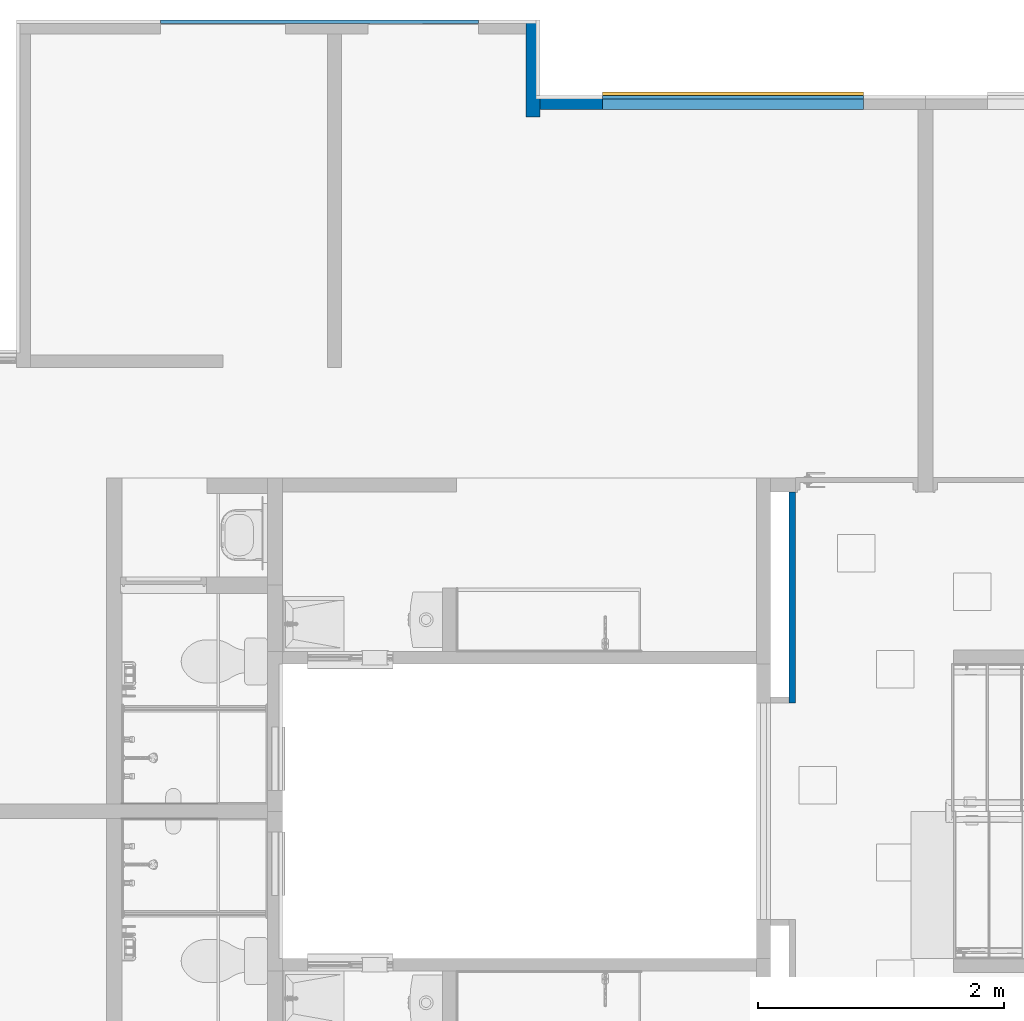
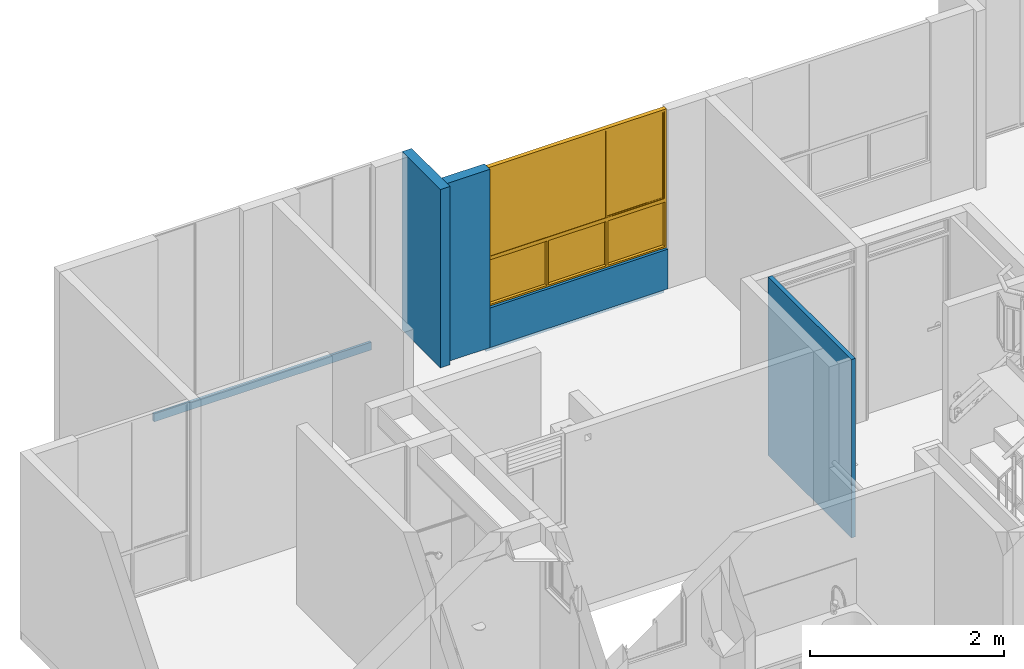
# One storey, part 19 of 48: 6 walls, 1 window, 1 opening.
"""IFC4 building model written with IfcOpenShell, lengths in metres."""

import ifcopenshell
import ifcopenshell.guid

model = None  # the IFC model being written
_history = None  # IfcOwnerHistory: only IFC2X3 demands one
_inside = {}  # id of a spatial element -> (the spatial element, [elements in it])
_under = {}  # id of a project, library or spatial element -> (it, [spatial elements below it])
_declared = {}  # id of a project -> (the project, [libraries it declares])
_typed = {}  # id of a type object -> (the type object, [elements of that type])
_made_of = {}  # id of a material, layer set ... -> (it, [elements and type objects made of it])


def new_model(schema):
    """Start an empty IFC model of exactly this schema.

    Asked for "IFC4X3", IfcOpenShell would pick the latest addendum, in which some entities
    have other attributes; the version numbers below select the first issue.
    IFC2X3 requires an IfcOwnerHistory on every rooted entity: one is made here for all.
    """
    global model, _history
    if schema == "IFC4X3":
        model = ifcopenshell.file(schema_version=(4, 3, 0, 0))
    else:
        model = ifcopenshell.file(schema=schema)
    _inside.clear()
    _under.clear()
    _declared.clear()
    _typed.clear()
    _made_of.clear()
    _history = None
    if model.schema == "IFC2X3":
        org = make("IfcOrganization", Name="unknown")
        user = make(
            "IfcPersonAndOrganization",
            ThePerson=make("IfcPerson", FamilyName="unknown"),
            TheOrganization=org,
        )
        app = make(
            "IfcApplication",
            ApplicationDeveloper=org,
            Version="unknown",
            ApplicationFullName="unknown",
            ApplicationIdentifier="unknown",
        )
        _history = make(
            "IfcOwnerHistory",
            OwningUser=user,
            OwningApplication=app,
            ChangeAction="ADDED",
            CreationDate=0,
        )
    return model


def make(cls, **values):
    """One entity of the class cls with the attributes given. An attribute that is None is left unset."""
    return model.create_entity(
        cls, **{name: value for name, value in values.items() if value is not None}
    )


def entity(cls, *values):
    """Any entity or typed value of the class cls, its attributes in the order of the schema. None: left unset."""
    e = model.create_entity(cls)
    for i, value in enumerate(values):
        if value is not None:
            e[i] = value
    return e


def rooted(cls, **values):
    """An entity with a GlobalId (a new one), such as an element, a storey or a relation."""
    return make(cls, GlobalId=ifcopenshell.guid.new(), OwnerHistory=_history, **values)


def si_unit(unit_type, name, prefix=None):
    """IfcSIUnit, for example si_unit("LENGTHUNIT", "METRE", prefix="MILLI")."""
    return make("IfcSIUnit", UnitType=unit_type, Prefix=prefix, Name=name)


def converted_unit(unit_type, name, factor, base, dimensions=None, offset=None):
    """IfcConversionBasedUnit, such as the inch: factor (a typed value) times the base unit."""
    return make(
        "IfcConversionBasedUnit"
        if offset is None
        else "IfcConversionBasedUnitWithOffset",
        ConversionOffset=offset,
        Dimensions=None
        if dimensions is None
        else entity("IfcDimensionalExponents", *dimensions),
        UnitType=unit_type,
        Name=name,
        ConversionFactor=make(
            "IfcMeasureWithUnit", ValueComponent=factor, UnitComponent=base
        ),
    )


def derived_unit(unit_type, elements):
    """IfcDerivedUnit: a product of units, each with its exponent."""
    return make(
        "IfcDerivedUnit",
        Elements=[
            make("IfcDerivedUnitElement", Unit=unit, Exponent=power)
            for unit, power in elements
        ],
        UnitType=unit_type,
    )


def assignment(units):
    """IfcUnitAssignment: the units of a project."""
    return None if units is None else make("IfcUnitAssignment", Units=units)


def point(xyz):
    """IfcCartesianPoint."""
    return None if xyz is None else make("IfcCartesianPoint", Coordinates=xyz)


def direction(xyz):
    """IfcDirection."""
    return None if xyz is None else make("IfcDirection", DirectionRatios=xyz)


def frame(location, z_axis=None, x_axis=None):
    """IfcAxis2Placement3D, a coordinate frame: its origin and axes. An axis left out is left unset."""
    return make(
        "IfcAxis2Placement3D",
        Location=point(location),
        Axis=direction(z_axis),
        RefDirection=direction(x_axis),
    )


def origin():
    """The frame at (0, 0, 0) with its axes left unset."""
    return frame((0.0, 0.0, 0.0))


def place(relative_to, where):
    """IfcLocalPlacement: puts the frame where relative to a parent placement (None: the world)."""
    return make(
        "IfcLocalPlacement", PlacementRelTo=relative_to, RelativePlacement=where
    )


def context(
    kind, dimensions, precision=None, world=None, true_north=None, identifier=None
):
    """IfcGeometricRepresentationContext, for example the 3D "Model" context."""
    return make(
        "IfcGeometricRepresentationContext",
        ContextIdentifier=identifier,
        ContextType=kind,
        CoordinateSpaceDimension=dimensions,
        Precision=precision,
        WorldCoordinateSystem=world,
        TrueNorth=true_north,
    )


def subcontext(parent, identifier, kind, view, scale=None):
    """IfcGeometricRepresentationSubContext, for example "Body" below "Model"."""
    return make(
        "IfcGeometricRepresentationSubContext",
        ContextIdentifier=identifier,
        ContextType=kind,
        ParentContext=parent,
        TargetScale=scale,
        TargetView=view,
    )


def project(units=None, contexts=None):
    """IfcProject with its units and contexts."""
    return rooted(
        "IfcProject",
        Name="project",
        RepresentationContexts=contexts,
        UnitsInContext=assignment(units),
    )


def spatial(cls, under=None, at=None, **own):
    """A site, building, storey or space (cls), placed at a placement, below another one or the project."""
    s = rooted(cls, ObjectPlacement=at, **own)
    if under is not None:
        _under.setdefault(under.id(), (under, []))[1].append(s)
    return s


def point_list(points):
    """IfcCartesianPointList2D or 3D."""
    cls = (
        "IfcCartesianPointList2D" if len(points[0]) == 2 else "IfcCartesianPointList3D"
    )
    return make(cls, CoordList=points)


def indexed_curve(points, segments=None, self_intersect=None):
    """IfcIndexedPolyCurve: lines and arcs through numbered points (the first is 1)."""
    return make(
        "IfcIndexedPolyCurve",
        Points=point_list(points),
        Segments=segments,
        SelfIntersect=self_intersect,
    )


def outline(outer, holes=None, kind="AREA"):
    """IfcArbitraryClosedProfileDef: a profile drawn as a closed curve; with holes, ...WithVoids."""
    if holes is None:
        return make("IfcArbitraryClosedProfileDef", ProfileType=kind, OuterCurve=outer)
    return make(
        "IfcArbitraryProfileDefWithVoids",
        ProfileType=kind,
        OuterCurve=outer,
        InnerCurves=holes,
    )


def extrude(swept, where, along, depth):
    """IfcExtrudedAreaSolid: the profile swept, set in the frame where, extruded along a direction by depth."""
    return make(
        "IfcExtrudedAreaSolid",
        SweptArea=swept,
        Position=where,
        ExtrudedDirection=direction(along),
        Depth=depth,
    )


def polygons(points, faces, closed=None, point_numbers=None):
    """IfcPolygonalFaceSet: a face is its outer loop, then its inner loops; points numbered from 1."""
    made = []
    for loops in faces:
        if len(loops) == 1:
            made.append(make("IfcIndexedPolygonalFace", CoordIndex=loops[0]))
        else:
            made.append(
                make(
                    "IfcIndexedPolygonalFaceWithVoids",
                    CoordIndex=loops[0],
                    InnerCoordIndices=loops[1:],
                )
            )
    return make(
        "IfcPolygonalFaceSet",
        Coordinates=point_list(points),
        Closed=closed,
        Faces=made,
        PnIndex=point_numbers,
    )


def shape(context_of_items, identifier, shape_type, items):
    """IfcShapeRepresentation: the items that make up one representation, for example the "Body"."""
    return make(
        "IfcShapeRepresentation",
        ContextOfItems=context_of_items,
        RepresentationIdentifier=identifier,
        RepresentationType=shape_type,
        Items=items,
    )


def source(mapping_origin, context_of_items, identifier, shape_type, items):
    """IfcRepresentationMap: a shape defined once, which mapped items show again and again."""
    return make(
        "IfcRepresentationMap",
        MappingOrigin=mapping_origin,
        MappedRepresentation=shape(context_of_items, identifier, shape_type, items),
    )


def transform(
    local_origin,
    x_axis=None,
    y_axis=None,
    z_axis=None,
    scale=None,
    scale2=None,
    scale3=None,
    uniform=True,
):
    """IfcCartesianTransformationOperator3D, or its non-uniform kind. x_axis, y_axis, z_axis: its Axis1, 2, 3."""
    if uniform:
        return make(
            "IfcCartesianTransformationOperator3D",
            Axis1=direction(x_axis),
            Axis2=direction(y_axis),
            LocalOrigin=point(local_origin),
            Scale=scale,
            Axis3=direction(z_axis),
        )
    return make(
        "IfcCartesianTransformationOperator3DnonUniform",
        Axis1=direction(x_axis),
        Axis2=direction(y_axis),
        LocalOrigin=point(local_origin),
        Scale=scale,
        Axis3=direction(z_axis),
        Scale2=scale2,
        Scale3=scale3,
    )


def mapped(mapping_source, mapping_target):
    """IfcMappedItem: shows the shape of a source again, moved by a transform."""
    return make(
        "IfcMappedItem", MappingSource=mapping_source, MappingTarget=mapping_target
    )


def material(Name=None, Category=None):
    """IfcMaterial."""
    return make("IfcMaterial", Name=Name, Category=Category)


def constituent(of_material, Name=None, Category=None, fraction=None):
    """IfcMaterialConstituent: one of the materials an element consists of."""
    return make(
        "IfcMaterialConstituent",
        Name=Name,
        Material=of_material,
        Fraction=fraction,
        Category=Category,
    )


def constituent_set(constituents=None, Name=None):
    """IfcMaterialConstituentSet."""
    return make(
        "IfcMaterialConstituentSet", Name=Name, MaterialConstituents=constituents
    )


def made_of(thing, what):
    """Note that an element or type object is made of a material, layer set ...; save() writes the relation."""
    if what is not None:
        _made_of.setdefault(what.id(), (what, []))[1].append(thing)
    return thing


def type_object(cls, material=None, **own):
    """A type object (cls), such as IfcWallType, which elements share."""
    return made_of(rooted(cls, **own), material)


def type_shapes(of_type, sources):
    """Give a type object the sources (RepresentationMaps) that its elements show as mapped items."""
    of_type.RepresentationMaps = sources


def element(
    cls,
    number,
    at=None,
    inside=None,
    cuts=None,
    type_object=None,
    material=None,
    context=None,
    identifier="Body",
    shape_type=None,
    held_by="IfcProductDefinitionShape",
    body=None,
    shapes=None,
    **own,
):
    """One element of the class cls, such as IfcWall. Its Tag is "e" and its number.

    at: its placement. inside: the storey or other place that contains it. cuts: it is an
    opening in that element (IfcRelVoidsElement). A single representation is given by context,
    identifier, shape_type and body (its items); several are given by shapes. held_by: the class
    of the entity that holds the representations. save() writes the other relations.
    """
    e = rooted(cls, Tag="e%d" % number, ObjectPlacement=at, **own)
    if body is not None:
        shapes = [shape(context, identifier, shape_type, body)]
    if shapes is not None:
        e.Representation = make(held_by, Representations=shapes)
    if inside is not None:
        _inside.setdefault(inside.id(), (inside, []))[1].append(e)
    if cuts is not None:
        rooted(
            "IfcRelVoidsElement", RelatingBuildingElement=cuts, RelatedOpeningElement=e
        )
    if type_object is not None:
        _typed.setdefault(type_object.id(), (type_object, []))[1].append(e)
    return made_of(e, material)


def fill(opening, filler):
    """IfcRelFillsElement: the door or window that sits in an opening."""
    return rooted(
        "IfcRelFillsElement",
        RelatingOpeningElement=opening,
        RelatedBuildingElement=filler,
    )


def aggregate(whole, parts):
    """IfcRelAggregates: a whole, such as a stair, and the parts it consists of."""
    return rooted("IfcRelAggregates", RelatingObject=whole, RelatedObjects=parts)


def save(model, path):
    """Write the relations noted so far, then the file.

    IfcRelAggregates (storeys below a building ...), IfcRelContainedInSpatialStructure (elements
    in a storey), IfcRelDefinesByType, IfcRelAssociatesMaterial and IfcRelDeclares: one each for
    every whole, place, type object, material and project.
    """
    for whole, parts in _under.values():
        aggregate(whole, parts)
    for where, things in _inside.values():
        rooted(
            "IfcRelContainedInSpatialStructure",
            RelatedElements=things,
            RelatingStructure=where,
        )
    for kind, things in _typed.values():
        rooted("IfcRelDefinesByType", RelatedObjects=things, RelatingType=kind)
    for what, things in _made_of.values():
        rooted("IfcRelAssociatesMaterial", RelatedObjects=things, RelatingMaterial=what)
    for by, libraries in _declared.values():
        rooted("IfcRelDeclares", RelatingContext=by, RelatedDefinitions=libraries)
    model.write(path)


model = new_model("IFC4")

# Units and contexts
model_context = context("Model", 3, precision=1e-05, world=origin(), true_north=direction((6.123031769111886e-17, 1.0)))
body_context = subcontext(model_context, "Body", "Model", "MODEL_VIEW")
ifc_project = project(units=[si_unit("LENGTHUNIT", "METRE"), si_unit("AREAUNIT", "SQUARE_METRE"), si_unit("VOLUMEUNIT", "CUBIC_METRE"), converted_unit("PLANEANGLEUNIT", "DEGREE", entity("IfcRatioMeasure", 0.017453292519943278), si_unit("PLANEANGLEUNIT", "RADIAN"), dimensions=[0, 0, 0, 0, 0, 0, 0]), si_unit("MASSUNIT", "GRAM", prefix="KILO"), derived_unit("MASSDENSITYUNIT", [(si_unit("MASSUNIT", "GRAM", prefix="KILO"), 1), (si_unit("LENGTHUNIT", "METRE"), -3)]), derived_unit("IONCONCENTRATIONUNIT", [(si_unit("MASSUNIT", "GRAM", prefix="KILO"), 1), (si_unit("LENGTHUNIT", "METRE"), -3)]), derived_unit("MOMENTOFINERTIAUNIT", [(si_unit("LENGTHUNIT", "METRE"), 4)]), si_unit("TIMEUNIT", "SECOND"), si_unit("FREQUENCYUNIT", "HERTZ"), si_unit("THERMODYNAMICTEMPERATUREUNIT", "DEGREE_CELSIUS"), derived_unit("THERMALTRANSMITTANCEUNIT", [(si_unit("MASSUNIT", "GRAM", prefix="KILO"), 1), (si_unit("THERMODYNAMICTEMPERATUREUNIT", "KELVIN"), -1), (si_unit("TIMEUNIT", "SECOND"), -3)]), derived_unit("THERMALCONDUCTANCEUNIT", [(si_unit("MASSUNIT", "GRAM", prefix="KILO"), 1), (si_unit("THERMODYNAMICTEMPERATUREUNIT", "KELVIN"), -1), (si_unit("TIMEUNIT", "SECOND"), -3), (si_unit("LENGTHUNIT", "METRE"), 1)]), derived_unit("VOLUMETRICFLOWRATEUNIT", [(si_unit("LENGTHUNIT", "METRE"), 3), (si_unit("TIMEUNIT", "SECOND"), -1)]), derived_unit("MASSFLOWRATEUNIT", [(si_unit("MASSUNIT", "GRAM", prefix="KILO"), 1), (si_unit("TIMEUNIT", "SECOND"), -1)]), derived_unit("ROTATIONALFREQUENCYUNIT", [(si_unit("TIMEUNIT", "SECOND"), -1)]), si_unit("ELECTRICCURRENTUNIT", "AMPERE"), si_unit("ELECTRICVOLTAGEUNIT", "VOLT"), si_unit("POWERUNIT", "WATT"), si_unit("FORCEUNIT", "NEWTON", prefix="KILO"), si_unit("ILLUMINANCEUNIT", "LUX"), si_unit("LUMINOUSFLUXUNIT", "LUMEN"), si_unit("LUMINOUSINTENSITYUNIT", "CANDELA"), derived_unit("USERDEFINED", [(si_unit("MASSUNIT", "GRAM", prefix="KILO"), -1), (si_unit("LENGTHUNIT", "METRE"), -2), (si_unit("TIMEUNIT", "SECOND"), 3), (si_unit("LUMINOUSFLUXUNIT", "LUMEN"), 1)]), derived_unit("USERDEFINED", [(si_unit("MASSUNIT", "GRAM", prefix="KILO"), 1), (si_unit("TIMEUNIT", "SECOND"), -3), (si_unit("LENGTHUNIT", "METRE"), 3), (si_unit("ELECTRICCURRENTUNIT", "AMPERE"), -2)]), derived_unit("SOUNDPOWERUNIT", [(si_unit("MASSUNIT", "GRAM", prefix="KILO"), 1), (si_unit("TIMEUNIT", "SECOND"), -3), (si_unit("LENGTHUNIT", "METRE"), 2)]), derived_unit("SOUNDPRESSUREUNIT", [(si_unit("MASSUNIT", "GRAM", prefix="KILO"), 1), (si_unit("LENGTHUNIT", "METRE"), -1), (si_unit("TIMEUNIT", "SECOND"), -2)]), derived_unit("LINEARVELOCITYUNIT", [(si_unit("LENGTHUNIT", "METRE"), 1), (si_unit("TIMEUNIT", "SECOND"), -1)]), si_unit("PRESSUREUNIT", "PASCAL"), derived_unit("USERDEFINED", [(si_unit("MASSUNIT", "GRAM", prefix="KILO"), 1), (si_unit("LENGTHUNIT", "METRE"), -2), (si_unit("TIMEUNIT", "SECOND"), -2)]), derived_unit("LINEARFORCEUNIT", [(si_unit("MASSUNIT", "GRAM", prefix="KILO"), 1), (si_unit("TIMEUNIT", "SECOND"), -2)]), derived_unit("PLANARFORCEUNIT", [(si_unit("MASSUNIT", "GRAM", prefix="KILO"), 1), (si_unit("LENGTHUNIT", "METRE"), -1), (si_unit("TIMEUNIT", "SECOND"), -2)]), derived_unit("SPECIFICHEATCAPACITYUNIT", [(si_unit("THERMODYNAMICTEMPERATUREUNIT", "KELVIN"), -1), (si_unit("LENGTHUNIT", "METRE"), 2), (si_unit("TIMEUNIT", "SECOND"), -2)]), derived_unit("HEATINGVALUEUNIT", [(si_unit("LENGTHUNIT", "METRE"), 2), (si_unit("TIMEUNIT", "SECOND"), -2)]), derived_unit("VAPORPERMEABILITYUNIT", [(si_unit("LENGTHUNIT", "METRE"), -1), (si_unit("TIMEUNIT", "SECOND"), 1)]), derived_unit("DYNAMICVISCOSITYUNIT", [(si_unit("MASSUNIT", "GRAM", prefix="KILO"), 1), (si_unit("TIMEUNIT", "SECOND"), -1), (si_unit("LENGTHUNIT", "METRE"), -1)]), derived_unit("THERMALEXPANSIONCOEFFICIENTUNIT", [(si_unit("THERMODYNAMICTEMPERATUREUNIT", "KELVIN"), -1)]), derived_unit("MODULUSOFELASTICITYUNIT", [(si_unit("MASSUNIT", "GRAM", prefix="KILO"), 1), (si_unit("LENGTHUNIT", "METRE"), -1), (si_unit("TIMEUNIT", "SECOND"), -2)]), derived_unit("ISOTHERMALMOISTURECAPACITYUNIT", [(si_unit("LENGTHUNIT", "METRE"), 3), (si_unit("MASSUNIT", "GRAM", prefix="KILO"), -1)]), derived_unit("MOISTUREDIFFUSIVITYUNIT", [(si_unit("TIMEUNIT", "SECOND"), -1), (si_unit("LENGTHUNIT", "METRE"), 2)])], contexts=[model_context])

# Site, building, storey
site_placement = place(None, origin())
site = spatial("IfcSite", under=ifc_project, at=site_placement, Name="Default", CompositionType="ELEMENT")
building_placement = place(site_placement, origin())
building = spatial("IfcBuilding", under=site, at=building_placement, CompositionType="ELEMENT")
storey_placement = place(building_placement, frame((0.0, 0.0, 7.050000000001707)))
storey = spatial("IfcBuildingStorey", under=building, at=storey_placement, Name="Nivel 4", CompositionType="ELEMENT", Elevation=7.050000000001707)

# Wall
ifc_material_1 = material(Name="Ladrillo claro (Aire)", Category="Materials")
wall_type_1 = type_object("IfcWallType", Name="Basic Wall:B2010 - 0.115m - Muro exterior en mampostería - Ladrillo", PredefinedType="STANDARD")
wall_1_placement = place(storey_placement, frame((6.124999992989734, 0.01999997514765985, 0.0), z_axis=(0.0, 0.0, 1.0), x_axis=(0.0, -1.0, 0.0)))
element("IfcWall", 1, at=wall_1_placement, inside=storey, type_object=wall_type_1, material=ifc_material_1, Name="Basic Wall:B2010 - 0.115m - Muro exterior en mampostería - Ladrillo", ObjectType="Basic Wall:B2010 - 0.115m - Muro exterior en mampostería - Ladrillo", PredefinedType="NOTDEFINED", context=body_context, shape_type="SweptSolid", body=[
    extrude(outline(indexed_curve([(0.7899180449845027, 0.05750000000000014), (1.6929241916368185e-18, 0.057499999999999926), (-1.6929241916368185e-18, -0.057499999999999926), (0.7899180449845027, -0.057499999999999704), (0.7899180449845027, 0.05750000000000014)], self_intersect=False)), origin(), (0.0, 0.0, 1.0), 2.2500000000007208),
])

# Wall, opening, window
wall_2_placement = place(storey_placement, frame((6.692499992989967, -0.6525000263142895, 0.0)))
wall_2 = element("IfcWall", 2, at=wall_2_placement, inside=storey, type_object=wall_type_1, material=ifc_material_1, Name="Basic Wall:B2010 - 0.115m - Muro exterior en mampostería - Ladrillo", ObjectType="Basic Wall:B2010 - 0.115m - Muro exterior en mampostería - Ladrillo", PredefinedType="NOTDEFINED", context=body_context, shape_type="Tessellation", body=[
    polygons([(4.788365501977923e-16, -0.05750000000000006, 0.0), (2.1249999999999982, -0.05750000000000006, 0.0), (2.1249999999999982, -0.05750000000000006, 0.5000000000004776), (4.788365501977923e-16, -0.05750000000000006, 0.5000000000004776), (2.1249999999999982, 0.05749999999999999, 0.0), (5.461691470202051e-16, 0.05749999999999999, 0.0), (5.461691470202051e-16, 0.05749999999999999, 0.5000000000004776), (2.1249999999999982, 0.05749999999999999, 0.5000000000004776)], [[[1, 2, 3, 4]], [[5, 6, 7, 8]], [[2, 1, 6, 5]], [[2, 5, 8, 3]], [[6, 1, 4, 7]], [[4, 3, 8, 7]]], closed=True),
])
opening_placement = place(wall_2_placement, frame((0.0, -0.0575000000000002, 0.5)))
opening = element("IfcOpeningElement", 3, at=opening_placement, cuts=wall_2, Name="B2020 - 6c Ventana corrediza - Aluminio + Vidrio:B2020 -2.13m x 1.750m - Ventana corrediza 2C - Aluminio + Vidrio:1", PredefinedType="OPENING", context=body_context, shape_type="SweptSolid", body=[
    extrude(outline(indexed_curve([(0.0, 2.125), (0.0, 0.0), (1.7499999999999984, 0.0), (1.7499999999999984, 2.125), (0.0, 2.125)], self_intersect=False)), frame((0.0, 0.0, 0.0), z_axis=(0.0, 1.0, 0.0), x_axis=(0.0, 0.0, 1.0)), (0.0, 0.0, 1.0), 0.115),
])
ifc_material_2 = material(Name="Aluminio", Category="Materials")
ifc_constituent_1 = constituent(ifc_material_2, Name="Aluminio", Category="Materials")
ifc_material_3 = material(Name="Vidrio", Category="Materials")
ifc_constituent_2 = constituent(ifc_material_3, Name="Vidrio", Category="Materials")
ifc_material_4 = material(Name="Alfajía en aluminio", Category="Materials")
ifc_constituent_3 = constituent(ifc_material_4, Name="Alfajía en aluminio", Category="Materials")
ifc_constituent_set_1 = constituent_set(constituents=[ifc_constituent_1, ifc_constituent_2, ifc_constituent_3])
ifc_constituent_4 = constituent(ifc_material_2, Name="Aluminio", Category="Materials")
ifc_constituent_5 = constituent(ifc_material_3, Name="Vidrio", Category="Materials")
ifc_constituent_6 = constituent(ifc_material_4, Name="Alfajía en aluminio", Category="Materials")
ifc_constituent_set_2 = constituent_set(constituents=[ifc_constituent_4, ifc_constituent_5, ifc_constituent_6])
window_type = type_object("IfcWindowType", Name="B2020 - 6c Ventana corrediza - Aluminio + Vidrio:B2020 -2.13m x 1.750m - Ventana corrediza 2C - Aluminio + Vidrio", PartitioningType="NOTDEFINED", PredefinedType="WINDOW", material=ifc_constituent_set_2)
shared_shape = source(origin(), body_context, "Body", "Tessellation", [
    polygons([(1.3916666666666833, 0.03749999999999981, 1.7249999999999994), (1.3916666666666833, 0.03749999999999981, 0.6249999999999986), (1.391666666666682, 0.032499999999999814, 0.6249999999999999), (1.3916666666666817, 0.032499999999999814, 1.7249999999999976), (-0.6833333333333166, 0.03249999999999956, 0.6249999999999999), (-0.6833333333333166, 0.032499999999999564, 1.7249999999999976), (-0.7083333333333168, 0.03249999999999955, 0.5999999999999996), (1.4166666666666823, 0.032499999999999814, 0.5999999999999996), (1.4166666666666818, 0.032499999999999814, 1.749999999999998), (-0.7083333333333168, 0.03249999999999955, 1.749999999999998), (-0.6833333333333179, 0.03749999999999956, 0.6249999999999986), (-0.6833333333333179, 0.03749999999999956, 1.7249999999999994), (-0.6883333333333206, 0.03749999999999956, 0.6199999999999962), (-0.6883333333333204, 0.03749999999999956, 1.7300000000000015), (1.3966666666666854, 0.03749999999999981, 1.7300000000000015), (1.3966666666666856, 0.03749999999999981, 0.6199999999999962), (1.3966666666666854, 0.05499999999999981, 1.7300000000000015), (1.3966666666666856, 0.05499999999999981, 0.6199999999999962), (-0.6883333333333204, 0.05499999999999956, 0.6199999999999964), (-0.6883333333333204, 0.05499999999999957, 1.7300000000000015), (-0.6833333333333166, 0.05499999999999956, 0.6249999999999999), (-0.6833333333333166, 0.05499999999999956, 1.7249999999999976), (1.3916666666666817, 0.05499999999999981, 1.7249999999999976), (1.391666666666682, 0.05499999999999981, 0.6249999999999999), (1.3916666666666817, 0.05999999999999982, 1.7249999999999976), (1.391666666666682, 0.05999999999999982, 0.6249999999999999), (-0.6833333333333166, 0.059999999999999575, 0.6249999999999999), (-0.6833333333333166, 0.059999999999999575, 1.7249999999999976), (-0.7033333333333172, 0.05999999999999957, 0.6049999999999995), (-0.7033333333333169, 0.05999999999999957, 1.744999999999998), (1.411666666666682, 0.05999999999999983, 1.744999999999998), (1.4116666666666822, 0.05999999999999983, 0.6049999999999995), (1.411666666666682, 0.07749999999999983, 1.744999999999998), (1.4116666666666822, 0.07749999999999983, 0.6049999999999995), (-0.7033333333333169, 0.07749999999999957, 0.6049999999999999), (-0.7033333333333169, 0.07749999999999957, 1.744999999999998), (-0.6833333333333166, 0.07749999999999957, 0.6249999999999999), (-0.6833333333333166, 0.07749999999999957, 1.7249999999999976), (1.3916666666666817, 0.07749999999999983, 1.7249999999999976), (1.391666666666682, 0.07749999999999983, 0.6249999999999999), (1.3916666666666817, 0.08249999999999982, 1.7249999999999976), (1.391666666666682, 0.08249999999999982, 0.6249999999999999), (-0.6833333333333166, 0.08249999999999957, 0.6249999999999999), (-0.6833333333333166, 0.08249999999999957, 1.7249999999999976), (-0.7083333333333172, 0.08249999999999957, 0.5999999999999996), (-0.7083333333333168, 0.08249999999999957, 1.749999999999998), (1.4166666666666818, 0.08249999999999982, 1.749999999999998), (1.4166666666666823, 0.08249999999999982, 0.5999999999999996)], [[[1, 2, 3, 4]], [[7, 8, 9, 10], [5, 6, 4, 3]], [[2, 11, 5, 3]], [[13, 14, 15, 16], [11, 2, 1, 12]], [[17, 18, 16, 15]], [[18, 19, 13, 16]], [[19, 18, 17, 20], [21, 22, 23, 24]], [[25, 26, 24, 23]], [[26, 27, 21, 24]], [[29, 30, 31, 32], [27, 26, 25, 28]], [[33, 34, 32, 31]], [[34, 35, 29, 32]], [[35, 34, 33, 36], [37, 38, 39, 40]], [[41, 42, 40, 39]], [[42, 43, 37, 40]], [[45, 46, 47, 48], [43, 42, 41, 44]], [[9, 8, 48, 47]], [[8, 7, 45, 48]], [[11, 12, 6, 5]], [[19, 20, 14, 13]], [[27, 28, 22, 21]], [[35, 36, 30, 29]], [[43, 44, 38, 37]], [[7, 10, 46, 45]], [[12, 1, 4, 6]], [[20, 17, 15, 14]], [[28, 25, 23, 22]], [[36, 33, 31, 30]], [[44, 41, 39, 38]], [[10, 9, 47, 46]]], closed=True),
    polygons([(-0.009999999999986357, 0.08249999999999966, 0.6249999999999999), (0.010000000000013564, 0.08249999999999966, 0.6249999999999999), (0.010000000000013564, 0.05999999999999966, 0.6249999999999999), (-0.009999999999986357, 0.05999999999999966, 0.6249999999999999), (-0.009999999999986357, 0.08249999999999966, 1.7249999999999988), (-0.009999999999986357, 0.05999999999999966, 1.7249999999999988), (0.010000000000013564, 0.05999999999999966, 1.7249999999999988), (0.010000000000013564, 0.08249999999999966, 1.7249999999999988)], [[[1, 2, 3, 4]], [[5, 1, 4, 6]], [[6, 4, 3, 7]], [[7, 3, 2, 8]], [[8, 2, 1, 5]], [[5, 6, 7, 8]]], closed=True),
    polygons([(0.7108333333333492, 0.06674999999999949, 1.7299999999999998), (-0.6833333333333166, 0.06674999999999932, 1.7299999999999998), (-0.6833333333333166, 0.06674999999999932, 0.6174999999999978), (0.7108333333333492, 0.06674999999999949, 0.6174999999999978), (0.7108333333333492, 0.0707499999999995, 0.6174999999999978), (0.7108333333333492, 0.0707499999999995, 1.7299999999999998), (-0.6833333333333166, 0.07074999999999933, 0.6174999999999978), (-0.6833333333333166, 0.07074999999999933, 1.7299999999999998)], [[[1, 2, 3, 4]], [[4, 5, 6, 1]], [[3, 7, 5, 4]], [[2, 8, 7, 3]], [[6, 5, 7, 8]], [[1, 6, 8, 2]]], closed=True),
    polygons([(0.7108333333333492, 0.07074999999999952, 0.6225000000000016), (-0.6783333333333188, 0.07074999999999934, 0.6225000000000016), (-0.6783333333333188, 0.06674999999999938, 0.6225000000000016), (0.7108333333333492, 0.06674999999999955, 0.6225000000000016), (-0.6783333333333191, 0.07074999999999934, 1.730000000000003), (-0.6783333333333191, 0.06674999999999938, 1.730000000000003), (0.7108333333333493, 0.06674999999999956, 1.730000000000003), (-0.6633333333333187, 0.06674999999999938, 1.7150000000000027), (-0.6633333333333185, 0.06674999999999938, 0.637500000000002), (0.695833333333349, 0.06674999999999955, 0.637500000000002), (0.695833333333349, 0.06674999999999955, 1.7150000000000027), (0.7108333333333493, 0.07074999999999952, 1.730000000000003), (-0.6633333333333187, 0.07074999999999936, 0.637500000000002), (-0.6633333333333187, 0.07074999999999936, 1.7150000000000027), (0.695833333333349, 0.07074999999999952, 1.7150000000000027), (0.695833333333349, 0.07074999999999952, 0.6375000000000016), (0.695833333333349, 0.07549999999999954, 0.637500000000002), (-0.6633333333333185, 0.07549999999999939, 0.6375000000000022), (-0.6633333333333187, 0.07549999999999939, 1.7150000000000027), (0.695833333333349, 0.07549999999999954, 1.7150000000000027), (-0.6833333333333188, 0.07549999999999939, 0.6175000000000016), (-0.683333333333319, 0.07549999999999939, 1.735000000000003), (0.7158333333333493, 0.07549999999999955, 1.735000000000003), (0.7158333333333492, 0.07549999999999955, 0.6175000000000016), (0.7158333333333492, 0.06199999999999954, 0.6175000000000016), (-0.6833333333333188, 0.061999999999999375, 0.6175000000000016), (-0.683333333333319, 0.061999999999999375, 1.735000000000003), (0.7158333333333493, 0.06199999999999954, 1.735000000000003), (-0.6633333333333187, 0.06199999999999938, 0.637500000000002), (-0.6633333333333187, 0.06199999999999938, 1.7150000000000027), (0.695833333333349, 0.06199999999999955, 1.7150000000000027), (0.695833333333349, 0.06199999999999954, 0.6375000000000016)], [[[1, 2, 3, 4]], [[2, 5, 6, 3]], [[3, 6, 7, 4], [8, 9, 10, 11]], [[5, 2, 1, 12], [13, 14, 15, 16]], [[17, 18, 13, 16]], [[18, 19, 14, 13]], [[21, 22, 23, 24], [19, 18, 17, 20]], [[25, 26, 21, 24]], [[26, 27, 22, 21]], [[27, 26, 25, 28], [29, 30, 31, 32]], [[10, 9, 29, 32]], [[9, 8, 30, 29]], [[12, 1, 4, 7]], [[20, 17, 16, 15]], [[28, 25, 24, 23]], [[11, 10, 32, 31]], [[5, 12, 7, 6]], [[19, 20, 15, 14]], [[27, 28, 23, 22]], [[8, 11, 31, 30]]], closed=True),
    polygons([(1.3916666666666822, 0.04424999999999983, 1.7299999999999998), (0.7033333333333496, 0.04424999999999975, 1.7299999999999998), (0.7033333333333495, 0.04424999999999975, 0.6174999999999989), (1.391666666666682, 0.04424999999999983, 0.6174999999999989), (1.391666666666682, 0.04824999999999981, 0.6174999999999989), (1.3916666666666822, 0.04824999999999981, 1.7299999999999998), (0.7033333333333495, 0.048249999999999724, 0.6174999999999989), (0.7033333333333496, 0.048249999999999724, 1.7299999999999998)], [[[1, 2, 3, 4]], [[4, 5, 6, 1]], [[3, 7, 5, 4]], [[2, 8, 7, 3]], [[6, 5, 7, 8]], [[1, 6, 8, 2]]], closed=True),
    polygons([(1.391666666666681, 0.04824999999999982, 0.6224999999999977), (0.7033333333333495, 0.04824999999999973, 0.6224999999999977), (0.7033333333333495, 0.044249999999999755, 0.6224999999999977), (1.391666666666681, 0.04424999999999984, 0.6224999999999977), (0.7033333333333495, 0.04824999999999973, 1.729999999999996), (0.7033333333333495, 0.044249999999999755, 1.729999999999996), (1.391666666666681, 0.04424999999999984, 1.729999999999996), (0.7183333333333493, 0.044249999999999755, 1.714999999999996), (0.7183333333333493, 0.044249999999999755, 0.6374999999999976), (1.3766666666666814, 0.04424999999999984, 0.6374999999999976), (1.3766666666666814, 0.04424999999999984, 1.714999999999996), (1.391666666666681, 0.04824999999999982, 1.729999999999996), (0.7183333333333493, 0.04824999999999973, 0.6374999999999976), (0.7183333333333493, 0.04824999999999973, 1.714999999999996), (1.3766666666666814, 0.04824999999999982, 1.714999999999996), (1.3766666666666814, 0.04824999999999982, 0.6374999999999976), (1.3766666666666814, 0.052999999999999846, 0.6374999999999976), (0.7183333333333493, 0.05299999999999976, 0.6374999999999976), (0.7183333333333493, 0.05299999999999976, 1.714999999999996), (1.3766666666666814, 0.052999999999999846, 1.714999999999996), (0.6983333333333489, 0.052999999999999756, 0.6174999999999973), (0.6983333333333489, 0.05299999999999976, 1.7349999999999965), (1.3966666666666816, 0.052999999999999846, 1.7349999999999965), (1.3966666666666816, 0.052999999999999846, 0.6174999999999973), (1.3966666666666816, 0.03949999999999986, 0.6174999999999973), (0.6983333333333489, 0.03949999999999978, 0.6174999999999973), (0.6983333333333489, 0.03949999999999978, 1.7349999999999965), (1.3966666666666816, 0.03949999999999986, 1.7349999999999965), (0.7183333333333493, 0.039499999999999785, 0.6374999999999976), (0.7183333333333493, 0.03949999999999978, 1.714999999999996), (1.3766666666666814, 0.039499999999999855, 1.714999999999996), (1.3766666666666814, 0.039499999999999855, 0.6374999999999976)], [[[1, 2, 3, 4]], [[2, 5, 6, 3]], [[3, 6, 7, 4], [8, 9, 10, 11]], [[5, 2, 1, 12], [13, 14, 15, 16]], [[17, 18, 13, 16]], [[18, 19, 14, 13]], [[21, 22, 23, 24], [19, 18, 17, 20]], [[25, 26, 21, 24]], [[26, 27, 22, 21]], [[27, 26, 25, 28], [29, 30, 31, 32]], [[10, 9, 29, 32]], [[9, 8, 30, 29]], [[12, 1, 4, 7]], [[20, 17, 16, 15]], [[28, 25, 24, 23]], [[11, 10, 32, 31]], [[5, 12, 7, 6]], [[19, 20, 15, 14]], [[27, 28, 23, 22]], [[8, 11, 31, 30]]], closed=True),
    polygons([(-0.6883333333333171, 0.04424999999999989, 1.7299999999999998), (-0.6883333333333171, 0.04424999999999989, 0.6174999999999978), (1.3916666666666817, 0.04424999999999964, 0.6174999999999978), (1.3916666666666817, 0.04424999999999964, 1.7299999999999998), (1.3916666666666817, 0.04824999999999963, 0.6174999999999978), (1.3916666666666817, 0.04824999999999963, 1.7299999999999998), (-0.6883333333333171, 0.04824999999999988, 0.6174999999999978), (-0.6883333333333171, 0.04824999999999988, 1.7299999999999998)], [[[1, 2, 3, 4]], [[3, 5, 6, 4]], [[2, 7, 5, 3]], [[1, 8, 7, 2]], [[8, 6, 5, 7]], [[4, 6, 8, 1]]], closed=True),
    polygons([(1.3966666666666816, 0.06674999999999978, 1.7299999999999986), (-0.6883333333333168, 0.06674999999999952, 1.7299999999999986), (-0.6883333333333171, 0.06674999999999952, 0.6174999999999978), (1.3966666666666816, 0.06674999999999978, 0.6174999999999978), (1.3966666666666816, 0.07074999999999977, 0.6174999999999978), (1.3966666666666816, 0.07074999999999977, 1.7299999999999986), (-0.6883333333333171, 0.07074999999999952, 0.6174999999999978), (-0.6883333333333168, 0.07074999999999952, 1.7299999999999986)], [[[1, 2, 3, 4]], [[4, 5, 6, 1]], [[3, 7, 5, 4]], [[2, 8, 7, 3]], [[6, 5, 7, 8]], [[1, 6, 8, 2]]], closed=True),
    polygons([(1.3966666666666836, 0.06813901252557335, 0.5800000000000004), (-0.6883333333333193, 0.06813901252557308, 0.5800000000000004), (-0.6883333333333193, 0.06813901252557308, 0.019999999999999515), (1.3966666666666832, 0.06813901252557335, 0.019999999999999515), (1.3966666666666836, 0.07213901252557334, 0.5800000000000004), (1.3966666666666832, 0.07213901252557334, 0.019999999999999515), (-0.6883333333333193, 0.07213901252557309, 0.019999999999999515), (-0.6883333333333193, 0.07213901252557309, 0.5800000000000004)], [[[1, 2, 3, 4]], [[5, 6, 7, 8]], [[4, 6, 5, 1]], [[3, 7, 6, 4]], [[2, 8, 7, 3]], [[1, 5, 8, 2]]], closed=True),
    polygons([(-0.009999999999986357, 0.08250000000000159, 0.5799999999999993), (-0.009999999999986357, 0.03250000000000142, 0.5799999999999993), (0.010000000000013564, 0.03250000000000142, 0.5799999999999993), (0.010000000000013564, 0.08250000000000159, 0.5799999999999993), (-0.009999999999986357, 0.08250000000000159, 0.019999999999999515), (0.010000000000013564, 0.08250000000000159, 0.019999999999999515), (0.010000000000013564, 0.03250000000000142, 0.019999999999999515), (-0.009999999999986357, 0.03250000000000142, 0.019999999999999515)], [[[1, 2, 3, 4]], [[5, 6, 7, 8]], [[4, 6, 5, 1]], [[3, 7, 6, 4]], [[2, 8, 7, 3]], [[1, 5, 8, 2]]], closed=True),
    polygons([(1.4166666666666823, 0.08249999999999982, 2.707167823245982e-16), (-0.7083333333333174, 0.08249999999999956, 4.060751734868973e-16), (-0.7083333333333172, 0.08249999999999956, 0.5999999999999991), (1.4166666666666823, 0.08249999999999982, 0.5999999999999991), (0.6983333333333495, 0.08250000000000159, 0.5799999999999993), (-0.6883333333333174, 0.0825000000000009, 0.5799999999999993), (-0.6883333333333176, 0.0825000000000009, 0.020000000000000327), (0.6983333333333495, 0.08250000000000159, 0.01999999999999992), (0.7183333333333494, 0.08250000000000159, 0.01999999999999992), (1.3966666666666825, 0.08250000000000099, 0.020000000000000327), (1.3966666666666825, 0.08250000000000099, 0.5799999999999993), (0.7183333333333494, 0.08250000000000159, 0.5799999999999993), (0.7183333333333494, 0.03250000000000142, 0.5799999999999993), (0.7183333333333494, 0.03250000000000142, 0.01999999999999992), (1.4166666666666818, 0.03250000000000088, 0.5999999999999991), (-0.7083333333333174, 0.0325000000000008, 0.5999999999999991), (-0.7083333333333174, 0.0325000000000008, 4.060751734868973e-16), (1.4166666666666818, 0.03250000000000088, 4.060751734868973e-16), (1.3966666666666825, 0.032499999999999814, 0.5799999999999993), (1.3966666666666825, 0.032499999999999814, 0.020000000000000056), (0.6983333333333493, 0.03250000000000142, 0.01999999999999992), (-0.6883333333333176, 0.03249999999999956, 0.020000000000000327), (-0.6883333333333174, 0.03249999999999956, 0.5799999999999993), (0.6983333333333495, 0.03250000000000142, 0.5799999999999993)], [[[1, 2, 3, 4], [5, 6, 7, 8], [9, 10, 11, 12]], [[12, 13, 14, 9]], [[15, 16, 17, 18], [13, 19, 20, 14], [21, 22, 23, 24]], [[8, 21, 24, 5]], [[11, 10, 20, 19]], [[15, 18, 1, 4]], [[10, 9, 14, 20]], [[18, 17, 2, 1]], [[7, 6, 23, 22]], [[17, 16, 3, 2]], [[6, 5, 24, 23]], [[4, 3, 16, 15]], [[19, 13, 12, 11]], [[22, 21, 8, 7]]], closed=True),
    polygons([(0.6983333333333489, 0.07213901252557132, 0.5849999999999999), (-0.6883333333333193, 0.07213901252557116, 0.5849999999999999), (-0.6883333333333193, 0.06813901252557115, 0.5849999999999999), (0.6983333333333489, 0.06813901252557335, 0.5849999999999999), (0.6983333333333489, 0.07213901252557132, 0.019999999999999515), (0.6983333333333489, 0.06813901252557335, 0.019999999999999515), (-0.6883333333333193, 0.06813901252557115, 0.019999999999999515), (-0.6883333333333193, 0.07213901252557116, 0.019999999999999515)], [[[1, 2, 3, 4]], [[5, 6, 7, 8]], [[1, 5, 8, 2]], [[2, 8, 7, 3]], [[3, 7, 6, 4]], [[4, 6, 5, 1]]], closed=True),
    polygons([(1.4166666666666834, 0.11499999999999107, -4.060751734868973e-16), (1.416666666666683, 0.1409807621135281, -0.015000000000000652), (1.416666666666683, 0.14348076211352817, -0.010669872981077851), (1.4166666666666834, 0.11633974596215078, 0.0049999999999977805), (1.4166666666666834, 0.08249999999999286, 0.0049999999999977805), (1.4166666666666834, 0.08249999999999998, -4.060751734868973e-16), (-0.7083333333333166, 0.11499999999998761, -4.060751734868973e-16), (-0.7083333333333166, 0.08249999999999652, -4.060751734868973e-16), (-0.7083333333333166, 0.0824999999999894, 0.0049999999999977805), (-0.7083333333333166, 0.11633974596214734, 0.0049999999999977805), (-0.7083333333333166, 0.1434807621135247, -0.010669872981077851), (-0.7083333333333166, 0.14098076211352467, -0.015000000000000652)], [[[1, 2, 3, 4, 5, 6]], [[7, 8, 9, 10, 11, 12]], [[6, 8, 7, 1]], [[5, 9, 8, 6]], [[4, 10, 9, 5]], [[3, 11, 10, 4]], [[2, 12, 11, 3]], [[1, 7, 12, 2]]], closed=True),
    polygons([(0.7183333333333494, 0.07213901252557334, 0.5849999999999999), (0.7183333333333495, 0.06813901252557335, 0.5849999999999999), (1.3966666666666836, 0.06813901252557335, 0.5849999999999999), (1.3966666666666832, 0.07213901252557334, 0.5849999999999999), (0.7183333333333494, 0.07213901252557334, 0.019999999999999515), (1.3966666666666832, 0.07213901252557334, 0.019999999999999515), (1.3966666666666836, 0.06813901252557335, 0.019999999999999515), (0.7183333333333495, 0.06813901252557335, 0.019999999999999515)], [[[1, 2, 3, 4]], [[5, 6, 7, 8]], [[4, 6, 5, 1]], [[3, 7, 6, 4]], [[2, 8, 7, 3]], [[1, 5, 8, 2]]], closed=True),
])
type_shapes(window_type, [shared_shape])
window_placement = place(opening_placement, frame((0.7083333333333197, 0.0, 0.0)))
window = element("IfcWindow", 4, at=window_placement, inside=storey, type_object=window_type, material=ifc_constituent_set_1, Name="B2020 - 6c Ventana corrediza - Aluminio + Vidrio:B2020 -2.13m x 1.750m - Ventana corrediza 2C - Aluminio + Vidrio", ObjectType="B2020 - 6c Ventana corrediza - Aluminio + Vidrio:B2020 -2.13m x 1.750m - Ventana corrediza 2C - Aluminio + Vidrio", OverallHeight=1.7499999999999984, OverallWidth=2.125, PartitioningType="NOTDEFINED", PredefinedType="WINDOW", context=body_context, shape_type="MappedRepresentation", body=[
    mapped(shared_shape, transform((0.0, 0.0, 0.0), scale=1.0)),
])
fill(opening, window)

# Walls
ifc_material_5 = material(Name="LADRILLO CLARO", Category="Materials")
wall_type_2 = type_object("IfcWallType", Name="Basic Wall:B2010 - 0.115m - ME mampostería no estructural - Ladrillo", PredefinedType="STANDARD")
wall_3_placement = place(storey_placement, frame((6.1824999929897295, -0.652500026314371, 0.0)))
element("IfcWall", 5, at=wall_3_placement, inside=storey, type_object=wall_type_2, material=ifc_material_5, Name="Basic Wall:B2010 - 0.115m - ME mampostería no estructural - Ladrillo", ObjectType="Basic Wall:B2010 - 0.115m - ME mampostería no estructural - Ladrillo", PredefinedType="NOTDEFINED", context=body_context, shape_type="SweptSolid", body=[
    extrude(outline(indexed_curve([(0.5100000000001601, 0.0574999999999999), (-1.646998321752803e-16, 0.057499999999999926), (1.6469983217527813e-16, -0.05750000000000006), (0.5100000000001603, -0.057500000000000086), (0.5100000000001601, 0.0574999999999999)], self_intersect=False)), origin(), (0.0, 0.0, 1.0), 2.2500000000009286),
])
ifc_material_6 = material(Name="0 muro divisorio", Category="Materials")
wall_type_3 = type_object("IfcWallType", Name="Basic Wall:B2010 - 0.05m - MI No estructural- Concreto", PredefinedType="STANDARD")
wall_4_placement = place(storey_placement, frame((8.237500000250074, -5.545000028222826, 0.0), z_axis=(0.0, 0.0, 1.0), x_axis=(0.0, 1.0, 0.0)))
element("IfcWall", 6, at=wall_4_placement, inside=storey, type_object=wall_type_3, material=ifc_material_6, Name="Basic Wall:B2010 - 0.05m - MI No estructural- Concreto", ObjectType="Basic Wall:B2010 - 0.05m - MI No estructural- Concreto", PredefinedType="NOTDEFINED", context=body_context, shape_type="SweptSolid", body=[
    extrude(outline(indexed_curve([(1.7199999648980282, 0.0249999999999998), (-1.2688523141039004e-16, 0.02499999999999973), (1.2688523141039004e-16, -0.02499999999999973), (1.7199999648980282, -0.024999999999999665), (1.7199999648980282, 0.0249999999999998)], self_intersect=False)), origin(), (0.0, 0.0, 1.0), 2.2499999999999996),
])
wall_type_4 = type_object("IfcWallType", Name="Basic Wall:B2010 - 0.03m - ME enchape  no estructural - Ladrillo", PredefinedType="STANDARD")
wall_5_placement = place(storey_placement, frame((5.68249999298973, 0.004999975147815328, -0.10000000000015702), z_axis=(0.0, 0.0, 1.0), x_axis=(-1.0, 0.0, 0.0)))
element("IfcWall", 7, at=wall_5_placement, inside=storey, type_object=wall_type_4, material=ifc_material_5, Name="Basic Wall:B2010 - 0.03m - ME enchape  no estructural - Ladrillo", ObjectType="Basic Wall:B2010 - 0.03m - ME enchape  no estructural - Ladrillo", PredefinedType="NOTDEFINED", context=body_context, shape_type="SweptSolid", body=[
    extrude(outline(indexed_curve([(2.5899999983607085, 0.015), (-1.4243869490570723e-16, 0.015), (1.424386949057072e-16, -0.014999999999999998), (2.5899999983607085, -0.015), (2.5899999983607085, 0.015)], self_intersect=False)), origin(), (0.0, 0.0, 1.0), 0.09999999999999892),
])
wall_6_placement = place(storey_placement, frame((8.817500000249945, -0.6100000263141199, -0.10000000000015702), z_axis=(0.0, 0.0, 1.0), x_axis=(-1.0, 0.0, 0.0)))
element("IfcWall", 8, at=wall_6_placement, inside=storey, type_object=wall_type_4, material=ifc_material_5, Name="Basic Wall:B2010 - 0.03m - ME enchape  no estructural - Ladrillo", ObjectType="Basic Wall:B2010 - 0.03m - ME enchape  no estructural - Ladrillo", PredefinedType="NOTDEFINED", context=body_context, shape_type="SweptSolid", body=[
    extrude(outline(indexed_curve([(2.125000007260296, 0.014999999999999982), (-5.3566291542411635e-17, 0.014999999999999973), (5.356629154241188e-17, -0.015000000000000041), (2.125000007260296, -0.015000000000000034), (2.125000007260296, 0.014999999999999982)], self_intersect=False)), origin(), (0.0, 0.0, 1.0), 0.09999999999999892),
])

save(model, "model.ifc")
